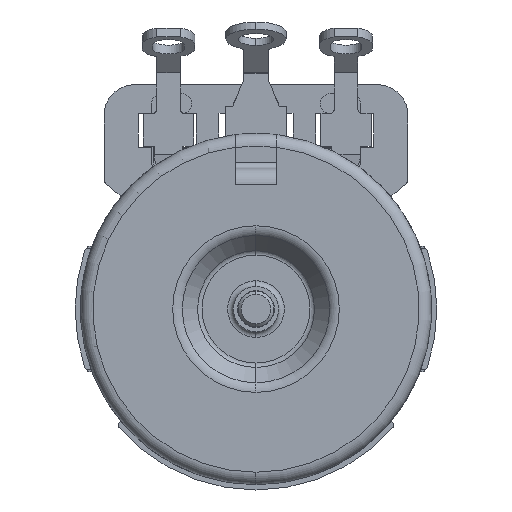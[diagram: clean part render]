
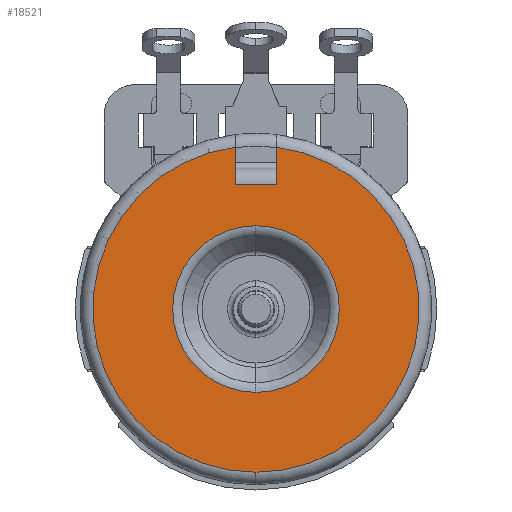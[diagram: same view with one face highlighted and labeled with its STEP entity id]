
A CAD part, front view. The second image highlights one B-rep face of the part: STEP entity #18521.
In plain terms, the highlighted planar face has unit normal (0, -1, 0).
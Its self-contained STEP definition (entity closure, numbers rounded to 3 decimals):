
#429 = DIRECTION ( 'NONE',  ( -1., 0., 0. ) ) ;
#785 = CARTESIAN_POINT ( 'NONE',  ( -1.397, 0., 8.382 ) ) ;
#906 = VERTEX_POINT ( 'NONE', #2965 ) ;
#911 = ORIENTED_EDGE ( 'NONE', *, *, #17277, .F. ) ;
#1328 = FACE_OUTER_BOUND ( 'NONE', #14234, .T. ) ;
#1711 = CARTESIAN_POINT ( 'NONE',  ( 0., 0., -5.603 ) ) ;
#1932 = DIRECTION ( 'NONE',  ( 0., -1., 0. ) ) ;
#2335 = ORIENTED_EDGE ( 'NONE', *, *, #12301, .T. ) ;
#2385 = CARTESIAN_POINT ( 'NONE',  ( 1.397, 0., 10.884 ) ) ;
#2530 = VERTEX_POINT ( 'NONE', #3007 ) ;
#2595 = AXIS2_PLACEMENT_3D ( 'NONE', #12576, #4154, #20802 ) ;
#2965 = CARTESIAN_POINT ( 'NONE',  ( 0., 0., 5.603 ) ) ;
#3007 = CARTESIAN_POINT ( 'NONE',  ( 0., 0., -10.973 ) ) ;
#3182 = CARTESIAN_POINT ( 'NONE',  ( -1.397, 0., 12.522 ) ) ;
#3290 = LINE ( 'NONE', #3182, #7487 ) ;
#3318 = FACE_BOUND ( 'NONE', #5508, .T. ) ;
#3862 = EDGE_CURVE ( 'NONE', #5586, #21024, #13751, .T. ) ;
#4154 = DIRECTION ( 'NONE',  ( 0., -1., 0. ) ) ;
#5180 = DIRECTION ( 'NONE',  ( 0., 0., -1. ) ) ;
#5508 = EDGE_LOOP ( 'NONE', ( #16856, #2335 ) ) ;
#5586 = VERTEX_POINT ( 'NONE', #10467 ) ;
#5591 = AXIS2_PLACEMENT_3D ( 'NONE', #18360, #1932, #8698 ) ;
#6764 = PLANE ( 'NONE',  #16725 ) ;
#7017 = VECTOR ( 'NONE', #11003, 1000. ) ;
#7317 = CIRCLE ( 'NONE', #8006, 5.603 ) ;
#7487 = VECTOR ( 'NONE', #5180, 1000. ) ;
#7553 = EDGE_CURVE ( 'NONE', #9286, #906, #18583, .T. ) ;
#8006 = AXIS2_PLACEMENT_3D ( 'NONE', #15466, #16910, #18780 ) ;
#8269 = CIRCLE ( 'NONE', #2595, 10.973 ) ;
#8663 = ORIENTED_EDGE ( 'NONE', *, *, #3862, .T. ) ;
#8698 = DIRECTION ( 'NONE',  ( 0., 0., -1. ) ) ;
#9075 = VERTEX_POINT ( 'NONE', #17931 ) ;
#9261 = EDGE_CURVE ( 'NONE', #2530, #14732, #12312, .T. ) ;
#9286 = VERTEX_POINT ( 'NONE', #1711 ) ;
#9475 = EDGE_CURVE ( 'NONE', #5586, #14732, #14036, .T. ) ;
#10467 = CARTESIAN_POINT ( 'NONE',  ( 1.397, 0., 8.382 ) ) ;
#11003 = DIRECTION ( 'NONE',  ( 0., 0., 1. ) ) ;
#11847 = DIRECTION ( 'NONE',  ( 0., -1., 0. ) ) ;
#12301 = EDGE_CURVE ( 'NONE', #906, #9286, #7317, .T. ) ;
#12312 = CIRCLE ( 'NONE', #5591, 10.973 ) ;
#12576 = CARTESIAN_POINT ( 'NONE',  ( 0., 0., 0. ) ) ;
#13439 = ORIENTED_EDGE ( 'NONE', *, *, #9261, .T. ) ;
#13751 = LINE ( 'NONE', #17078, #17017 ) ;
#13865 = CARTESIAN_POINT ( 'NONE',  ( 0., 0., 0. ) ) ;
#14036 = LINE ( 'NONE', #21224, #7017 ) ;
#14234 = EDGE_LOOP ( 'NONE', ( #20266, #8663, #911, #16597, #13439 ) ) ;
#14732 = VERTEX_POINT ( 'NONE', #2385 ) ;
#15305 = DIRECTION ( 'NONE',  ( 0., 0., -1. ) ) ;
#15429 = DIRECTION ( 'NONE',  ( 0., 1., 0. ) ) ;
#15466 = CARTESIAN_POINT ( 'NONE',  ( 0., 0., 0. ) ) ;
#16597 = ORIENTED_EDGE ( 'NONE', *, *, #20709, .T. ) ;
#16725 = AXIS2_PLACEMENT_3D ( 'NONE', #21747, #11847, #15305 ) ;
#16856 = ORIENTED_EDGE ( 'NONE', *, *, #7553, .T. ) ;
#16910 = DIRECTION ( 'NONE',  ( 0., 1., 0. ) ) ;
#17017 = VECTOR ( 'NONE', #429, 1000. ) ;
#17078 = CARTESIAN_POINT ( 'NONE',  ( -1.397, 0., 8.382 ) ) ;
#17277 = EDGE_CURVE ( 'NONE', #9075, #21024, #3290, .T. ) ;
#17931 = CARTESIAN_POINT ( 'NONE',  ( -1.397, 0., 10.884 ) ) ;
#18360 = CARTESIAN_POINT ( 'NONE',  ( 0., 0., 0. ) ) ;
#18521 = ADVANCED_FACE ( 'NONE', ( #1328, #3318 ), #6764, .T. ) ;
#18583 = CIRCLE ( 'NONE', #21427, 5.603 ) ;
#18780 = DIRECTION ( 'NONE',  ( 0., 0., -1. ) ) ;
#19076 = DIRECTION ( 'NONE',  ( 0., 0., -1. ) ) ;
#20266 = ORIENTED_EDGE ( 'NONE', *, *, #9475, .F. ) ;
#20709 = EDGE_CURVE ( 'NONE', #9075, #2530, #8269, .T. ) ;
#20802 = DIRECTION ( 'NONE',  ( 0., 0., -1. ) ) ;
#21024 = VERTEX_POINT ( 'NONE', #785 ) ;
#21224 = CARTESIAN_POINT ( 'NONE',  ( 1.397, 0., 12.522 ) ) ;
#21427 = AXIS2_PLACEMENT_3D ( 'NONE', #13865, #15429, #19076 ) ;
#21747 = CARTESIAN_POINT ( 'NONE',  ( -5.207, 0., 0. ) ) ;
